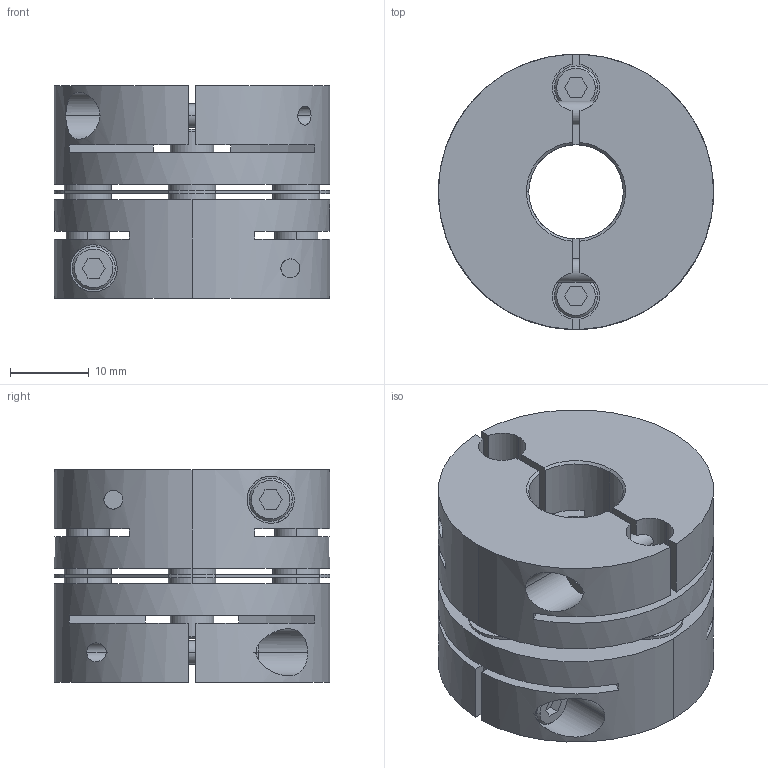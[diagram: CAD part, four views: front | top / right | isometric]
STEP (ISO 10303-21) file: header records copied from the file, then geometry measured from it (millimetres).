
FILE_DESCRIPTION((''),'2;1');
FILE_NAME('LAS-35C-12×14.stp','2011-08-10T16:47:42',(''),(''),'AutoCAD STEP 2000i','AutoCAD 2000i',', , ');
FILE_SCHEMA(('CONFIG_CONTROL_DESIGN'));
Length unit declared in the file: millimetre
Products named in the file (6): LAS-35C-8×14; 忣兜1; LA-3502-D14; LA-3502-D08-1; LA-3502-D08; LAS35-ITA
Assembly tree (5 placements, depth 2):
  LAS-35C-8×14
    忣兜1
    LA-3502-D14
    LA-3502-D08-1
    LA-3502-D08
    LAS35-ITA
Bounding box: 35 x 35 x 27 mm (x, y, z)
Volume: 18691.7 mm3; surface area: 11823.6 mm2
Topology: 1 solids, 1 shells, 236 faces, 624 edges, 408 vertices
Faces by surface type: plane 112, cylinder 96, cone 28
Entity records: 8251 total; most frequent: CARTESIAN_POINT 2068, DIRECTION 1288, ORIENTED_EDGE 1248, EDGE_CURVE 624, AXIS2_PLACEMENT_3D 470, VERTEX_POINT 408, VECTOR 348, LINE 348
